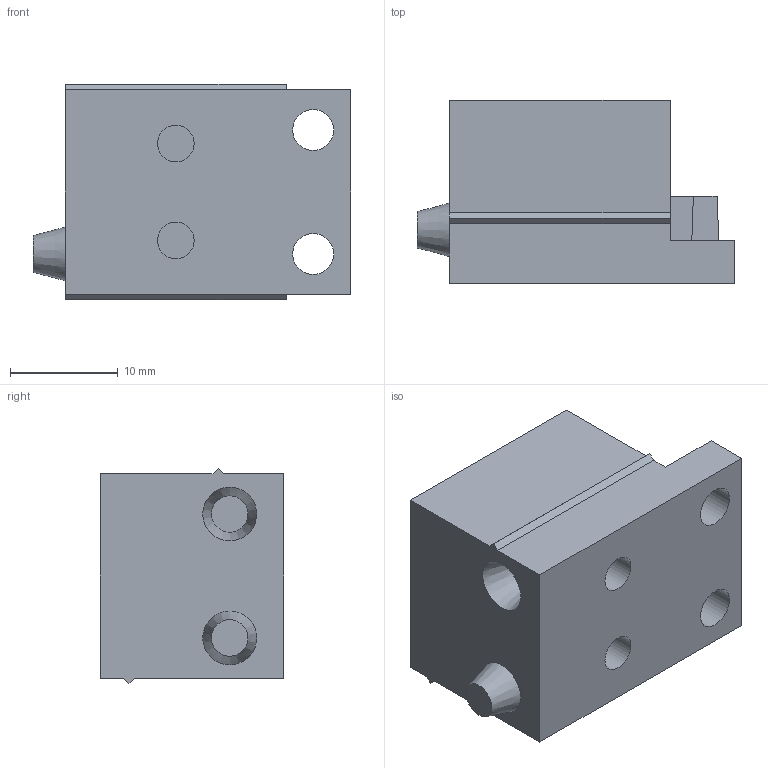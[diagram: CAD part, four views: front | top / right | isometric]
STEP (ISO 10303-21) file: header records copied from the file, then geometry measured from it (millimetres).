
FILE_DESCRIPTION(/* description */ ('STEP AP203'),/* implementation_level */ '2;1');
FILE_NAME(/* name */ '107848 TMS-STPG-GY',/* time_stamp */ '2024-10-04T14:41:39+02:00',/* author */ ('License CC BY-ND 4.0'),/* organization */ ('CADENAS'),/* preprocessor_version */ 'ST-DEVELOPER v19.3',/* originating_system */ 'PARTsolutions',/* authorisation */ ' ');
FILE_SCHEMA (('CONFIG_CONTROL_DESIGN'));
Length unit declared in the file: millimetre
Products named in the file (1): 107848 TMS-STPG-GY
Bounding box: 29.5 x 17 x 20 mm (x, y, z)
Volume: 6968.9 mm3; surface area: 2713.4 mm2
Topology: 1 solids, 1 shells, 36 faces, 84 edges, 56 vertices
Faces by surface type: plane 28, cylinder 6, cone 2
Full cylindrical faces by diameter (mm): 3.4 x4, 3.8 x2
Entity records: 1022 total; most frequent: CARTESIAN_POINT 169, DIRECTION 166, ORIENTED_EDGE 152, EDGE_CURVE 76, LINE 60, VECTOR 60, VERTEX_POINT 56, EDGE_LOOP 54
